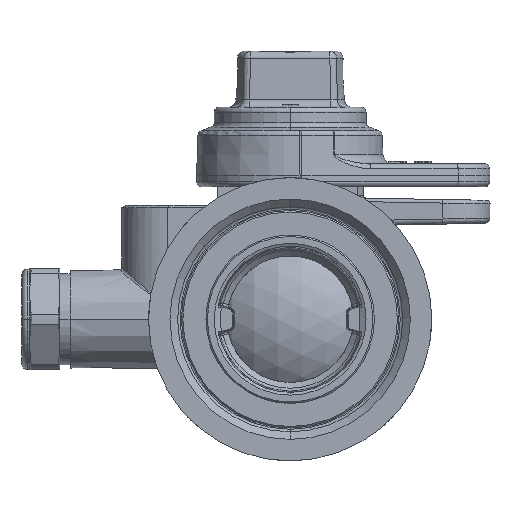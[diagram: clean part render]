
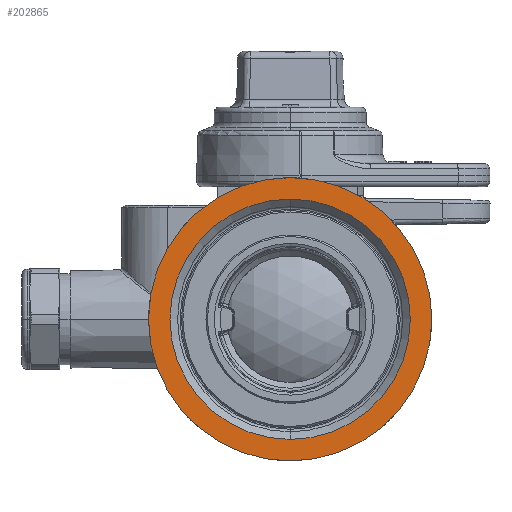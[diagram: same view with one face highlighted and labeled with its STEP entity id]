
A CAD part, left-side view. The second image highlights one B-rep face of the part: STEP entity #202865.
In plain terms, the highlighted planar face has unit normal (-1, 0, 0).
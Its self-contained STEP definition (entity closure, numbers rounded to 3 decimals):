
#202663 = CONICAL_SURFACE('',#202664,23.,0.785);
#202664 = AXIS2_PLACEMENT_3D('',#202665,#202666,#202667);
#202665 = CARTESIAN_POINT('',(-68.65,-26.581,5.881));
#202666 = DIRECTION('',(-1.,0.,0.));
#202667 = DIRECTION('',(0.,0.,1.));
#202737 = CONICAL_SURFACE('',#202738,23.,0.785);
#202738 = AXIS2_PLACEMENT_3D('',#202739,#202740,#202741);
#202739 = CARTESIAN_POINT('',(-68.65,-26.581,5.881));
#202740 = DIRECTION('',(-1.,0.,0.));
#202741 = DIRECTION('',(0.,0.,1.));
#202761 = VERTEX_POINT('',#202762);
#202762 = CARTESIAN_POINT('',(-69.4,-26.581,29.631));
#202783 = EDGE_CURVE('',#202761,#202784,#202786,.T.);
#202784 = VERTEX_POINT('',#202785);
#202785 = CARTESIAN_POINT('',(-69.4,-26.581,-17.869));
#202786 = SURFACE_CURVE('',#202787,(#202792,#202799),.PCURVE_S1.);
#202787 = CIRCLE('',#202788,23.75);
#202788 = AXIS2_PLACEMENT_3D('',#202789,#202790,#202791);
#202789 = CARTESIAN_POINT('',(-69.4,-26.581,5.881));
#202790 = DIRECTION('',(1.,0.,0.));
#202791 = DIRECTION('',(0.,0.,1.));
#202792 = PCURVE('',#202737,#202793);
#202793 = DEFINITIONAL_REPRESENTATION('',(#202794),#202798);
#202794 = LINE('',#202795,#202796);
#202795 = CARTESIAN_POINT('',(6.283,0.75));
#202796 = VECTOR('',#202797,1.);
#202797 = DIRECTION('',(-1.,0.));
#202798 = ( GEOMETRIC_REPRESENTATION_CONTEXT(2) 
PARAMETRIC_REPRESENTATION_CONTEXT() REPRESENTATION_CONTEXT('2D SPACE',''
  ) );
#202799 = PCURVE('',#202800,#202805);
#202800 = PLANE('',#202801);
#202801 = AXIS2_PLACEMENT_3D('',#202802,#202803,#202804);
#202802 = CARTESIAN_POINT('',(-69.4,-26.581,5.881));
#202803 = DIRECTION('',(-1.,0.,0.));
#202804 = DIRECTION('',(0.,0.,1.));
#202805 = DEFINITIONAL_REPRESENTATION('',(#202806),#202814);
#202806 = ( BOUNDED_CURVE() B_SPLINE_CURVE(2,(#202807,#202808,#202809,
    #202810,#202811,#202812,#202813),.UNSPECIFIED.,.T.,.F.) 
B_SPLINE_CURVE_WITH_KNOTS((1,2,2,2,2,1),(-2.094,0.,
    2.094,4.189,6.283,8.378),
.UNSPECIFIED.) CURVE() GEOMETRIC_REPRESENTATION_ITEM() 
RATIONAL_B_SPLINE_CURVE((1.,0.5,1.,0.5,1.,0.5,1.)) REPRESENTATION_ITEM(
  '') );
#202807 = CARTESIAN_POINT('',(23.75,0.));
#202808 = CARTESIAN_POINT('',(23.75,-41.136));
#202809 = CARTESIAN_POINT('',(-11.875,-20.568));
#202810 = CARTESIAN_POINT('',(-47.5,0.));
#202811 = CARTESIAN_POINT('',(-11.875,20.568));
#202812 = CARTESIAN_POINT('',(23.75,41.136));
#202813 = CARTESIAN_POINT('',(23.75,0.));
#202814 = ( GEOMETRIC_REPRESENTATION_CONTEXT(2) 
PARAMETRIC_REPRESENTATION_CONTEXT() REPRESENTATION_CONTEXT('2D SPACE',''
  ) );
#202841 = EDGE_CURVE('',#202761,#202784,#202842,.T.);
#202842 = SURFACE_CURVE('',#202843,(#202848,#202855),.PCURVE_S1.);
#202843 = CIRCLE('',#202844,23.75);
#202844 = AXIS2_PLACEMENT_3D('',#202845,#202846,#202847);
#202845 = CARTESIAN_POINT('',(-69.4,-26.581,5.881));
#202846 = DIRECTION('',(-1.,0.,0.));
#202847 = DIRECTION('',(0.,0.,1.));
#202848 = PCURVE('',#202663,#202849);
#202849 = DEFINITIONAL_REPRESENTATION('',(#202850),#202854);
#202850 = LINE('',#202851,#202852);
#202851 = CARTESIAN_POINT('',(0.,0.75));
#202852 = VECTOR('',#202853,1.);
#202853 = DIRECTION('',(1.,0.));
#202854 = ( GEOMETRIC_REPRESENTATION_CONTEXT(2) 
PARAMETRIC_REPRESENTATION_CONTEXT() REPRESENTATION_CONTEXT('2D SPACE',''
  ) );
#202855 = PCURVE('',#202800,#202856);
#202856 = DEFINITIONAL_REPRESENTATION('',(#202857),#202861);
#202857 = CIRCLE('',#202858,23.75);
#202858 = AXIS2_PLACEMENT_2D('',#202859,#202860);
#202859 = CARTESIAN_POINT('',(0.,0.));
#202860 = DIRECTION('',(1.,0.));
#202861 = ( GEOMETRIC_REPRESENTATION_CONTEXT(2) 
PARAMETRIC_REPRESENTATION_CONTEXT() REPRESENTATION_CONTEXT('2D SPACE',''
  ) );
#202865 = ADVANCED_FACE('',(#202866,#202926),#202800,.T.);
#202866 = FACE_BOUND('',#202867,.T.);
#202867 = EDGE_LOOP('',(#202868,#202899));
#202868 = ORIENTED_EDGE('',*,*,#202869,.T.);
#202869 = EDGE_CURVE('',#202870,#202872,#202874,.T.);
#202870 = VERTEX_POINT('',#202871);
#202871 = CARTESIAN_POINT('',(-69.4,-54.581,5.881));
#202872 = VERTEX_POINT('',#202873);
#202873 = CARTESIAN_POINT('',(-69.4,1.419,5.881));
#202874 = SURFACE_CURVE('',#202875,(#202880,#202887),.PCURVE_S1.);
#202875 = CIRCLE('',#202876,28.);
#202876 = AXIS2_PLACEMENT_3D('',#202877,#202878,#202879);
#202877 = CARTESIAN_POINT('',(-69.4,-26.581,5.881));
#202878 = DIRECTION('',(-1.,0.,0.));
#202879 = DIRECTION('',(-0.,-1.,0.));
#202880 = PCURVE('',#202800,#202881);
#202881 = DEFINITIONAL_REPRESENTATION('',(#202882),#202886);
#202882 = CIRCLE('',#202883,28.);
#202883 = AXIS2_PLACEMENT_2D('',#202884,#202885);
#202884 = CARTESIAN_POINT('',(0.,0.));
#202885 = DIRECTION('',(0.,-1.));
#202886 = ( GEOMETRIC_REPRESENTATION_CONTEXT(2) 
PARAMETRIC_REPRESENTATION_CONTEXT() REPRESENTATION_CONTEXT('2D SPACE',''
  ) );
#202887 = PCURVE('',#202888,#202893);
#202888 = CYLINDRICAL_SURFACE('',#202889,28.);
#202889 = AXIS2_PLACEMENT_3D('',#202890,#202891,#202892);
#202890 = CARTESIAN_POINT('',(-70.4,-26.581,5.881));
#202891 = DIRECTION('',(1.,0.,0.));
#202892 = DIRECTION('',(0.,-1.,0.));
#202893 = DEFINITIONAL_REPRESENTATION('',(#202894),#202898);
#202894 = LINE('',#202895,#202896);
#202895 = CARTESIAN_POINT('',(6.283,1.));
#202896 = VECTOR('',#202897,1.);
#202897 = DIRECTION('',(-1.,0.));
#202898 = ( GEOMETRIC_REPRESENTATION_CONTEXT(2) 
PARAMETRIC_REPRESENTATION_CONTEXT() REPRESENTATION_CONTEXT('2D SPACE',''
  ) );
#202899 = ORIENTED_EDGE('',*,*,#202900,.T.);
#202900 = EDGE_CURVE('',#202872,#202870,#202901,.T.);
#202901 = SURFACE_CURVE('',#202902,(#202907,#202914),.PCURVE_S1.);
#202902 = CIRCLE('',#202903,28.);
#202903 = AXIS2_PLACEMENT_3D('',#202904,#202905,#202906);
#202904 = CARTESIAN_POINT('',(-69.4,-26.581,5.881));
#202905 = DIRECTION('',(-1.,0.,0.));
#202906 = DIRECTION('',(0.,1.,0.));
#202907 = PCURVE('',#202800,#202908);
#202908 = DEFINITIONAL_REPRESENTATION('',(#202909),#202913);
#202909 = CIRCLE('',#202910,28.);
#202910 = AXIS2_PLACEMENT_2D('',#202911,#202912);
#202911 = CARTESIAN_POINT('',(0.,0.));
#202912 = DIRECTION('',(0.,1.));
#202913 = ( GEOMETRIC_REPRESENTATION_CONTEXT(2) 
PARAMETRIC_REPRESENTATION_CONTEXT() REPRESENTATION_CONTEXT('2D SPACE',''
  ) );
#202914 = PCURVE('',#202915,#202920);
#202915 = CYLINDRICAL_SURFACE('',#202916,28.);
#202916 = AXIS2_PLACEMENT_3D('',#202917,#202918,#202919);
#202917 = CARTESIAN_POINT('',(-70.4,-26.581,5.881));
#202918 = DIRECTION('',(1.,0.,0.));
#202919 = DIRECTION('',(0.,-1.,0.));
#202920 = DEFINITIONAL_REPRESENTATION('',(#202921),#202925);
#202921 = LINE('',#202922,#202923);
#202922 = CARTESIAN_POINT('',(3.142,1.));
#202923 = VECTOR('',#202924,1.);
#202924 = DIRECTION('',(-1.,0.));
#202925 = ( GEOMETRIC_REPRESENTATION_CONTEXT(2) 
PARAMETRIC_REPRESENTATION_CONTEXT() REPRESENTATION_CONTEXT('2D SPACE',''
  ) );
#202926 = FACE_BOUND('',#202927,.T.);
#202927 = EDGE_LOOP('',(#202928,#202929));
#202928 = ORIENTED_EDGE('',*,*,#202783,.T.);
#202929 = ORIENTED_EDGE('',*,*,#202841,.F.);
